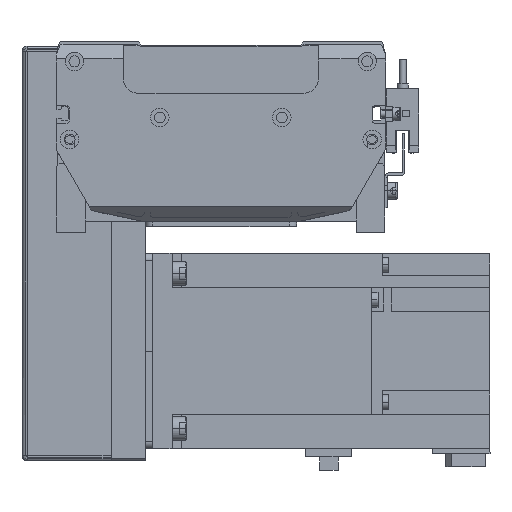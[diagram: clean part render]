
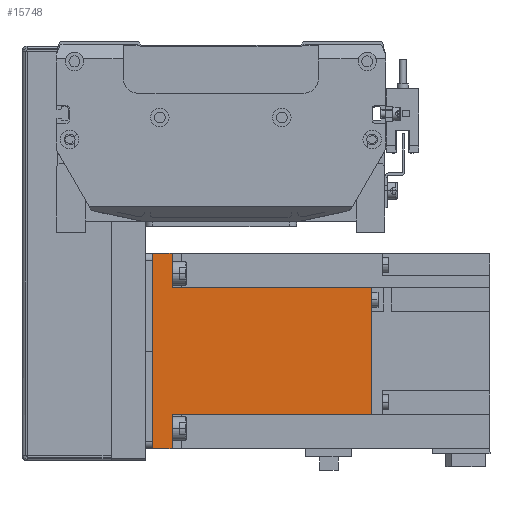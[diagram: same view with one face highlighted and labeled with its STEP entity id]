
A CAD part, front view. The second image highlights one B-rep face of the part: STEP entity #15748.
In plain terms, the highlighted planar face has unit normal (0, -1, 0) as drawn and (0, 0, 1) by its records, which use the part's own axes.
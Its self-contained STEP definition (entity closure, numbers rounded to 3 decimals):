
#575 = AXIS2_PLACEMENT_3D ( 'NONE', #38892, #14701, #22749 ) ;
#1095 = ORIENTED_EDGE ( 'NONE', *, *, #35490, .F. ) ;
#1701 = ORIENTED_EDGE ( 'NONE', *, *, #6438, .T. ) ;
#2847 = ORIENTED_EDGE ( 'NONE', *, *, #48455, .T. ) ;
#5840 = LINE ( 'NONE', #43839, #9628 ) ;
#6438 = EDGE_CURVE ( 'NONE', #42611, #43087, #35173, .T. ) ;
#6764 = CARTESIAN_POINT ( 'NONE',  ( 25.95, 8., 40. ) ) ;
#9628 = VECTOR ( 'NONE', #51594, 1000. ) ;
#9960 = CARTESIAN_POINT ( 'NONE',  ( -40., 8., 40. ) ) ;
#10750 = DIRECTION ( 'NONE',  ( 1., 0., 0. ) ) ;
#11059 = VERTEX_POINT ( 'NONE', #52315 ) ;
#12281 = CARTESIAN_POINT ( 'NONE',  ( 40., 8., 40. ) ) ;
#12320 = VECTOR ( 'NONE', #37704, 1000. ) ;
#12656 = FACE_OUTER_BOUND ( 'NONE', #30538, .T. ) ;
#12822 = EDGE_CURVE ( 'NONE', #15125, #23077, #21673, .T. ) ;
#12856 = VECTOR ( 'NONE', #10750, 1000. ) ;
#13328 = ORIENTED_EDGE ( 'NONE', *, *, #26817, .F. ) ;
#14478 = LINE ( 'NONE', #22270, #39143 ) ;
#14546 = CARTESIAN_POINT ( 'NONE',  ( -40., 8., 40. ) ) ;
#14671 = ORIENTED_EDGE ( 'NONE', *, *, #47906, .F. ) ;
#14701 = DIRECTION ( 'NONE',  ( 0., 0., -1. ) ) ;
#15125 = VERTEX_POINT ( 'NONE', #19634 ) ;
#15144 = CARTESIAN_POINT ( 'NONE',  ( -25.95, 89.8, 40. ) ) ;
#15748 = ADVANCED_FACE ( 'NONE', ( #12656 ), #29051, .F. ) ;
#17685 = LINE ( 'NONE', #14546, #35350 ) ;
#19634 = CARTESIAN_POINT ( 'NONE',  ( 40., 0., 40. ) ) ;
#20634 = VECTOR ( 'NONE', #29849, 1000. ) ;
#21673 = LINE ( 'NONE', #44297, #23535 ) ;
#22270 = CARTESIAN_POINT ( 'NONE',  ( -25.95, 89.8, 40. ) ) ;
#22444 = DIRECTION ( 'NONE',  ( 0., 1., 0. ) ) ;
#22712 = EDGE_CURVE ( 'NONE', #11059, #26177, #14478, .T. ) ;
#22749 = DIRECTION ( 'NONE',  ( -1., 0., 0. ) ) ;
#22766 = DIRECTION ( 'NONE',  ( 1., 0., 0. ) ) ;
#23077 = VERTEX_POINT ( 'NONE', #12281 ) ;
#23535 = VECTOR ( 'NONE', #32502, 1000. ) ;
#23891 = DIRECTION ( 'NONE',  ( 1., 0., 0. ) ) ;
#26177 = VERTEX_POINT ( 'NONE', #15144 ) ;
#26794 = CARTESIAN_POINT ( 'NONE',  ( -40., 89.8, 40. ) ) ;
#26817 = EDGE_CURVE ( 'NONE', #43357, #23077, #38713, .T. ) ;
#27220 = ORIENTED_EDGE ( 'NONE', *, *, #22712, .F. ) ;
#29051 = PLANE ( 'NONE',  #575 ) ;
#29849 = DIRECTION ( 'NONE',  ( 0., -1., 0. ) ) ;
#30538 = EDGE_LOOP ( 'NONE', ( #1095, #1701, #2847, #31193, #13328, #51266, #14671, #27220 ) ) ;
#31193 = ORIENTED_EDGE ( 'NONE', *, *, #12822, .T. ) ;
#32502 = DIRECTION ( 'NONE',  ( 0., 1., 0. ) ) ;
#33013 = LINE ( 'NONE', #26794, #12856 ) ;
#33768 = LINE ( 'NONE', #42270, #12320 ) ;
#35173 = LINE ( 'NONE', #41873, #20634 ) ;
#35350 = VECTOR ( 'NONE', #22766, 1000. ) ;
#35490 = EDGE_CURVE ( 'NONE', #42611, #11059, #17685, .T. ) ;
#35498 = VECTOR ( 'NONE', #23891, 1000. ) ;
#36573 = VERTEX_POINT ( 'NONE', #42265 ) ;
#37704 = DIRECTION ( 'NONE',  ( 0., -1., 0. ) ) ;
#38713 = LINE ( 'NONE', #40217, #35498 ) ;
#38892 = CARTESIAN_POINT ( 'NONE',  ( -40., 89.8, 40. ) ) ;
#39143 = VECTOR ( 'NONE', #22444, 1000. ) ;
#40217 = CARTESIAN_POINT ( 'NONE',  ( -40., 8., 40. ) ) ;
#41404 = CARTESIAN_POINT ( 'NONE',  ( -40., 0., 40. ) ) ;
#41873 = CARTESIAN_POINT ( 'NONE',  ( -40., 89.8, 40. ) ) ;
#42265 = CARTESIAN_POINT ( 'NONE',  ( 25.95, 89.8, 40. ) ) ;
#42270 = CARTESIAN_POINT ( 'NONE',  ( 25.95, 89.8, 40. ) ) ;
#42481 = EDGE_CURVE ( 'NONE', #36573, #43357, #33768, .T. ) ;
#42611 = VERTEX_POINT ( 'NONE', #9960 ) ;
#43087 = VERTEX_POINT ( 'NONE', #41404 ) ;
#43357 = VERTEX_POINT ( 'NONE', #6764 ) ;
#43839 = CARTESIAN_POINT ( 'NONE',  ( 0., 0., 40. ) ) ;
#44297 = CARTESIAN_POINT ( 'NONE',  ( 40., 89.8, 40. ) ) ;
#47906 = EDGE_CURVE ( 'NONE', #26177, #36573, #33013, .T. ) ;
#48455 = EDGE_CURVE ( 'NONE', #43087, #15125, #5840, .T. ) ;
#51266 = ORIENTED_EDGE ( 'NONE', *, *, #42481, .F. ) ;
#51594 = DIRECTION ( 'NONE',  ( 1., 0., 0. ) ) ;
#52315 = CARTESIAN_POINT ( 'NONE',  ( -25.95, 8., 40. ) ) ;
